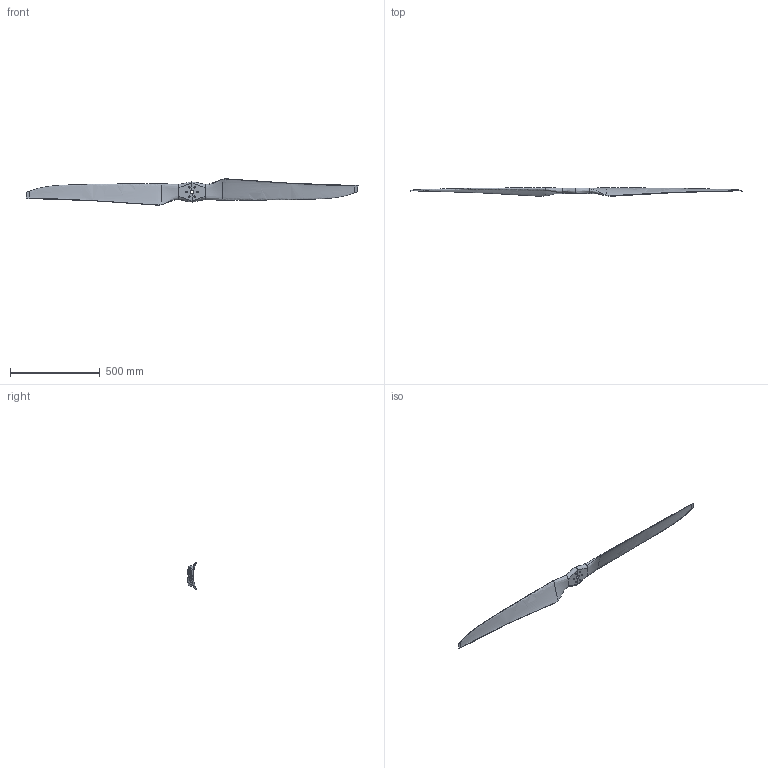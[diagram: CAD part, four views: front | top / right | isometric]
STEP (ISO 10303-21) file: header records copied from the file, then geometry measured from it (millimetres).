
FILE_DESCRIPTION (( 'STEP AP214' ), '1' );
FILE_NAME ('直桨-73×25-CCW-MP（对外）.STEP', '2026-02-24T12:05:32', ( '' ), ( '' ), 'SwSTEP 2.0', 'SolidWorks 2021', '' );
FILE_SCHEMA (( 'AUTOMOTIVE_DESIGN' ));
Length unit declared in the file: millimetre
Products named in the file (1): 直桨-73×25-CCW-MP（对外）
Bounding box: 1854.2 x 48.42 x 146.67 mm (x, y, z)
Volume: 2180313.1 mm3; surface area: 372008 mm2
Topology: 1 solids, 1 shells, 31 faces, 83 edges, 52 vertices
Faces by surface type: bspline 22, cylinder 7, plane 2
Full cylindrical faces by diameter (mm): 8.3 x6, 20 x1
Entity records: 49572 total; most frequent: CARTESIAN_POINT 48960, ORIENTED_EDGE 152, EDGE_CURVE 76, B_SPLINE_CURVE_WITH_KNOTS 66, VERTEX_POINT 52, EDGE_LOOP 50, DIRECTION 38, FACE_OUTER_BOUND 38
